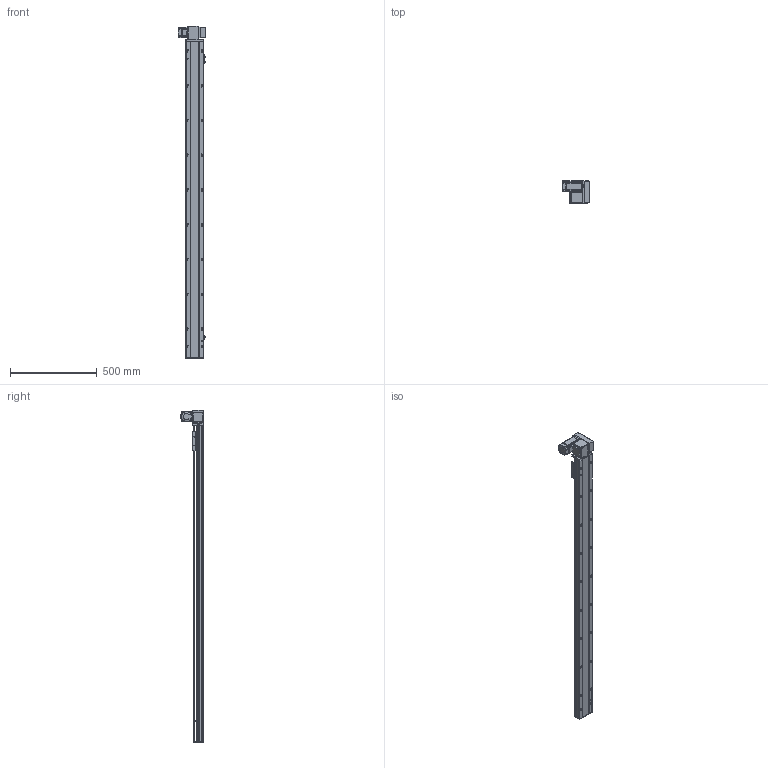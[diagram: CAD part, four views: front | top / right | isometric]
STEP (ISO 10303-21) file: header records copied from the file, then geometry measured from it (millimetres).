
FILE_DESCRIPTION (( 'STEP AP214' ), '1' );
FILE_NAME ('TPT10-L32-1600-RU-T10-C4.STEP', '2023-03-03T11:56:33', ( '' ), ( '' ), 'SwSTEP 2.0', 'SolidWorks 2020', '' );
FILE_SCHEMA (( 'AUTOMOTIVE_DESIGN' ));
Length unit declared in the file: millimetre
Products named in the file (12): 葩璃 TPT10-L-002 奻裔MZ-102A-02^TPT10-L32-RU-T10-C4; TPT10-L32-1600-RU-T10-C4; hexagon socket head cap screws gb_GB_FASTENER_SCREWS_HSHCS M3X6-N; 葩璃 TPT10-L-005 賑釱MZ-102A-03^TPT10-L32-RU-T10-C4; 葩璃 pm-t65-672^TPT10-L32-RU-T10-C4; hexagon head bolts-full thread gb_GB_FASTENER_BOLT_STBAB A M5X16-N; 葩璃 TPT10-L-001 菁釱MZ-102A-01^TPT10-L32-RU-T10-C4; 葩璃 侂狟100W^TPT10-L32-RU-T10-C4; 葩璃 侂狟400W^TPT10-L32-RU-T10-C4; hex nuts, style 1-grades ab gb_GB_FASTENER_NUT_SNAB1 M3-N; 葩璃 TPT10-L-009 萇儂啣^TPT10-L32-RU-T10-C4_100W; 葩璃 TPT10-L-007 々湍釱MZ-169x88^TPT10-L32-RU-T10-C4_L
Assembly tree (23 placements, depth 2):
  TPT10-L32-1600-RU-T10-C4
    葩璃 TPT10-L-001 菁釱MZ-102A-01^TPT10-L32-RU-T10-C4
    葩璃 TPT10-L-002 奻裔MZ-102A-02^TPT10-L32-RU-T10-C4
    葩璃 TPT10-L-007 々湍釱MZ-169x88^TPT10-L32-RU-T10-C4_L
    葩璃 TPT10-L-005 賑釱MZ-102A-03^TPT10-L32-RU-T10-C4
    葩璃 TPT10-L-009 萇儂啣^TPT10-L32-RU-T10-C4_100W
    葩璃 pm-t65-672^TPT10-L32-RU-T10-C4  x3
    葩璃 侂狟100W^TPT10-L32-RU-T10-C4
    葩璃 侂狟400W^TPT10-L32-RU-T10-C4
    hexagon head bolts-full thread gb_GB_FASTENER_BOLT_STBAB A M5X16-N
    hexagon socket head cap screws gb_GB_FASTENER_SCREWS_HSHCS M3X6-N  x6
    hex nuts, style 1-grades ab gb_GB_FASTENER_NUT_SNAB1 M3-N  x6
Bounding box: 160.7 x 134.65 x 1910 mm (x, y, z)
Volume: 6242433.4 mm3; surface area: 1216758.3 mm2
Topology: 31 solids, 31 shells, 2005 faces, 5267 edges, 3361 vertices
Faces by surface type: plane 1074, cylinder 671, cone 214, bspline 34, torus 12
Entity records: 51605 total; most frequent: CARTESIAN_POINT 10224, DIRECTION 8418, ORIENTED_EDGE 8118, EDGE_CURVE 4059, AXIS2_PLACEMENT_3D 2980, VERTEX_POINT 2652, LINE 2458, VECTOR 2458
